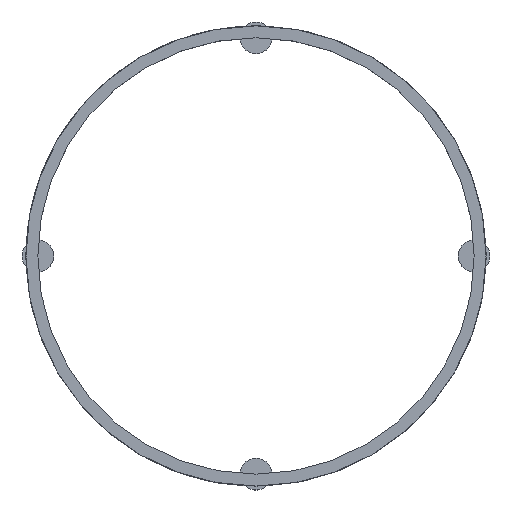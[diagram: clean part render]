
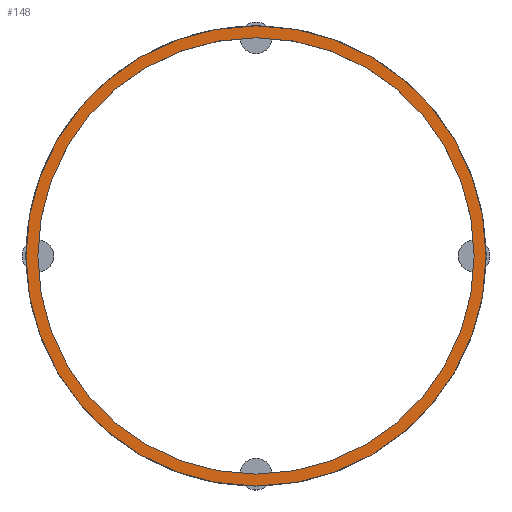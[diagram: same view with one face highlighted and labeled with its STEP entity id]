
A CAD part, top view. The second image highlights one B-rep face of the part: STEP entity #148.
In plain terms, the highlighted planar face has unit normal (0, 0, 1).
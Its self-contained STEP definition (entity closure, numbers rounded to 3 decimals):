
#103=PLANE('',#738);
#127=FACE_BOUND('',#245,.T.);
#128=FACE_BOUND('',#246,.T.);
#148=ADVANCED_FACE('',(#127,#128),#103,.T.);
#245=EDGE_LOOP('',(#375));
#246=EDGE_LOOP('',(#376));
#375=ORIENTED_EDGE('',*,*,#534,.F.);
#376=ORIENTED_EDGE('',*,*,#587,.T.);
#482=VERTEX_POINT('',#1040);
#527=VERTEX_POINT('',#1150);
#534=EDGE_CURVE('',#482,#482,#616,.T.);
#587=EDGE_CURVE('',#527,#527,#655,.T.);
#616=CIRCLE('',#686,27.5);
#655=CIRCLE('',#737,29.);
#686=AXIS2_PLACEMENT_3D('',#1039,#803,#804);
#737=AXIS2_PLACEMENT_3D('',#1149,#919,#920);
#738=AXIS2_PLACEMENT_3D('',#1151,#921,#922);
#803=DIRECTION('',(0.,0.,1.));
#804=DIRECTION('',(1.,0.,0.));
#919=DIRECTION('',(0.,0.,1.));
#920=DIRECTION('',(1.,0.,0.));
#921=DIRECTION('',(0.,0.,1.));
#922=DIRECTION('',(1.,0.,0.));
#1039=CARTESIAN_POINT('',(0.,0.,6.));
#1040=CARTESIAN_POINT('',(27.5,0.,6.));
#1149=CARTESIAN_POINT('',(0.,0.,6.));
#1150=CARTESIAN_POINT('',(29.,0.,6.));
#1151=CARTESIAN_POINT('',(0.,0.,6.));
